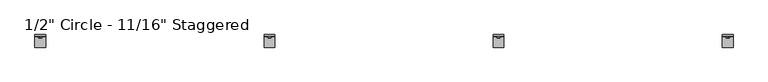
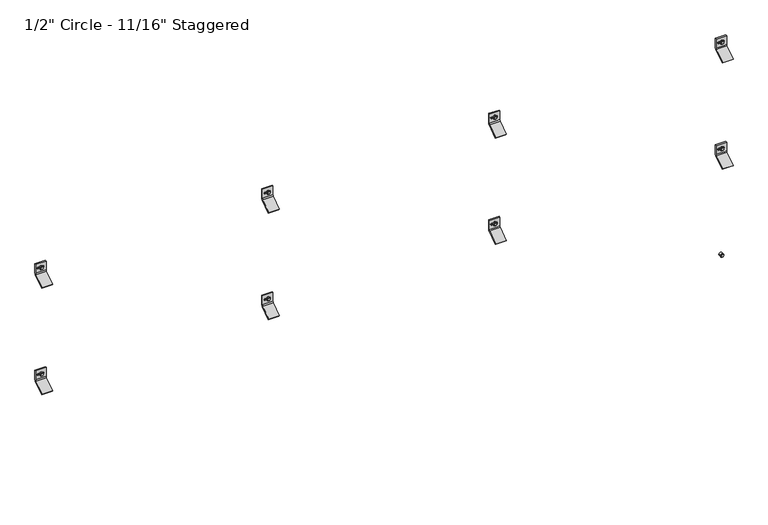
"""IFC4 building model written with IfcOpenShell, lengths in millimetres: plate geometry."""

from ifc_helpers import new_model, si_unit, point, frame, frame_2d, origin, place, context, project, spatial, polyline, circle_curve, trimmed, segment, composite_curve, outline, extrude, source, transform, mapped, element, save
from ifc_brep_helpers import plane_surface, cylinder_surface, revolved_surface, advanced_brep


def plate_2fbea91c(model_context):
    return source(origin(), model_context, "Body", "SolidModel", [
        extrude(outline(polyline([(1395.4295323, 1230.0570034), (1391.0838197, 1232.5660017), (1391.0838197, 1237.5839983), (1395.4295323, 1240.0929966), (1399.7752448, 1237.5839983), (1399.7752448, 1232.5660017), (1395.4295323, 1230.0570034)])), frame((0.0, -58.7607779, 0.0), z_axis=(0.0, 1.0, 0.0), x_axis=(0.0, 0.0, 1.0)), (0.0, 0.0, 1.0), 11.1357779),
        extrude(outline(composite_curve([segment(trimmed(circle_curve(frame_2d((1395.5228392, 1235.075)), 6.35), [point((1395.5228392, 1241.425))], [point((1395.5228392, 1228.725))], False, "CARTESIAN"), True, "CONTINUOUS"), segment(trimmed(circle_curve(frame_2d((1395.5228392, 1235.075)), 6.35), [point((1395.5228392, 1228.725))], [point((1395.5228392, 1241.425))], False, "CARTESIAN"), True, "CONTINUOUS")], self_intersect=False)), frame((0.0, -57.0817743, 0.0), z_axis=(0.0, 1.0, 0.0), x_axis=(0.0, 0.0, 1.0)), (0.0, 0.0, 1.0), 9.4567743),
        advanced_brep(
        [(1216.025, -47.625, 1378.2802202), (1216.025, -51.2819443, 1370.6181877), (1216.025, -89.5163624, 1343.84616), (1216.025, -92.9330442, 1347.2628418), (1216.025, -54.3526876, 1374.2770983), (1216.025, -52.4002, 1378.2802911), (1216.025, -52.4002, 1412.4729053), (1216.025, -47.625, 1412.4729053), (1254.125, -47.625, 1378.2802202), (1254.125, -47.625, 1412.4729053), (1254.125, -52.4002, 1412.4729053), (1254.125, -52.4002, 1378.2802911), (1254.125, -54.3526876, 1374.2770983), (1254.125, -92.9330442, 1347.2628418), (1254.125, -89.5163624, 1343.84616), (1254.125, -51.2819443, 1370.6181877), (1241.8161889, -52.4002, 1398.4276891), (1241.8161889, -52.4002, 1392.0776891), (1225.5883287, -52.4002, 1392.0776891), (1225.5883287, -52.4002, 1398.4276891), (1241.8161889, -47.625, 1392.0776891), (1241.8161889, -47.625, 1398.4276891), (1225.5883287, -47.625, 1398.4276891), (1225.5883287, -47.625, 1392.0776891)],
        [
            (0, 1, circle_curve(frame((1216.025, -57.4802202, 1378.2802202), z_axis=(-1.0, 0.0, 0.0), x_axis=(0.0, -1.0, 0.0)), 9.8552202)),
            (1, 2),
            (2, 3),
            (3, 4),
            (4, 5, circle_curve(frame((1216.025, -57.4803246, 1378.2802911), z_axis=(1.0, 0.0, 0.0), x_axis=(0.0, -1.0, 0.0)), 5.0801246)),
            (5, 6),
            (6, 7),
            (7, 0),
            (8, 9),
            (9, 10),
            (10, 11),
            (11, 12, circle_curve(frame((1254.125, -57.4803246, 1378.2802911), z_axis=(-1.0, 0.0, 0.0), x_axis=(0.0, -1.0, 0.0)), 5.0801246)),
            (12, 13),
            (13, 14),
            (14, 15),
            (15, 8, circle_curve(frame((1254.125, -57.4802202, 1378.2802202), z_axis=(1.0, 0.0, 0.0), x_axis=(0.0, -1.0, 0.0)), 9.8552202)),
            (4, 12),
            (11, 5),
            (10, 6),
            (16, 17, circle_curve(frame((1241.8161889, -52.4002, 1395.2526891), z_axis=(0.0, 1.0, 0.0), x_axis=(0.0, 0.0, -1.0)), 3.175)),
            (17, 18),
            (18, 19, circle_curve(frame((1225.5883287, -52.4002, 1395.2526891), z_axis=(0.0, 1.0, 0.0), x_axis=(0.0, 0.0, -1.0)), 3.175)),
            (19, 16),
            (9, 7),
            (8, 0),
            (20, 21, circle_curve(frame((1241.8161889, -47.625, 1395.2526891), z_axis=(0.0, -1.0, 0.0), x_axis=(0.0, 0.0, -1.0)), 3.175)),
            (21, 22),
            (22, 23, circle_curve(frame((1225.5883287, -47.625, 1395.2526891), z_axis=(0.0, -1.0, 0.0), x_axis=(0.0, 0.0, -1.0)), 3.175)),
            (23, 20),
            (15, 1),
            (20, 17),
            (16, 21),
            (19, 22),
            (18, 23),
            (14, 2),
            (13, 3),
        ],
        [
            plane_surface(frame((1216.025, -67.3354404, 1378.2802202), z_axis=(-1.0, 0.0, 0.0), x_axis=(0.0, 0.0, 1.0))),
            plane_surface(frame((1254.125, -67.3354404, 1378.2802202), z_axis=(1.0, 0.0, 0.0), x_axis=(0.0, 0.0, -1.0))),
            revolved_surface(polyline([(1254.125, -62.5604492, 1378.2802911), (1216.025, -62.5604492, 1378.2802911)]), (1254.125, -57.4803246, 1378.2802911), (1.0, 0.0, 0.0)),
            plane_surface(frame((1216.025, -52.4002, 1378.2802911), z_axis=(0.0, -1.0, 0.0), x_axis=(1.0, 0.0, 0.0))),
            plane_surface(frame((1216.025, -52.4002, 1412.4729053), z_axis=(0.0, 0.0, 1.0), x_axis=(1.0, 0.0, 0.0))),
            plane_surface(frame((1216.025, -47.625, 1412.4729053), z_axis=(0.0, 1.0, 6.99569853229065e-12), x_axis=(1.0, 0.0, 0.0))),
            cylinder_surface(frame((1254.125, -57.4802202, 1378.2802202), z_axis=(-1.0, 0.0, 0.0), x_axis=(0.0, -1.0, 0.0)), 9.8552202),
            revolved_surface(polyline([(1241.8161889, -52.4002, 1392.0776891), (1241.8161889, -47.625, 1392.0776891)]), (1241.8161889, -25.6669948, 1395.2526891), (0.0, -1.0, 0.0)),
            plane_surface(frame((1241.8161889, -86.677982, 1398.4276891), z_axis=(0.0, 0.0, -1.0), x_axis=(0.0, 1.0, 0.0))),
            revolved_surface(polyline([(1225.5883287, -52.4002, 1392.0776891), (1225.5883287, -47.625, 1392.0776891)]), (1225.5883287, -25.6669948, 1395.2526891), (0.0, -1.0, 0.0)),
            plane_surface(frame((1225.5883287, -86.677982, 1392.0776891), z_axis=(-2.7237720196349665e-11, 0.0, 1.0), x_axis=(0.0, 1.0, 0.0))),
            plane_surface(frame((1216.025, -51.2819443, 1370.6181877), z_axis=(0.0, 0.5735764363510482, -0.8191520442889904), x_axis=(1.0, 0.0, 0.0))),
            plane_surface(frame((1216.025, -89.5163624, 1343.84616), z_axis=(0.0, -0.7071067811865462, -0.7071067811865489), x_axis=(1.0, 0.0, 0.0))),
            plane_surface(frame((1216.025, -92.9330442, 1347.2628418), z_axis=(0.0, -0.5735764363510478, 0.8191520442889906), x_axis=(1.0, 0.0, 0.0))),
        ],
        [
            (0, [[1, 2, 3, 4, 5, 6, 7, 8]]),
            (1, [[9, 10, 11, 12, 13, 14, 15, 16]]),
            (2, [[-5, 17, -12, 18]]),
            (3, [[-6, -18, -11, 19], [20, 21, 22, 23]]),
            (4, [[-7, -19, -10, 24]]),
            (5, [[-8, -24, -9, 25], [26, 27, 28, 29]]),
            (6, [[-1, -25, -16, 30]]),
            (7, [[31, -20, 32, -26]]),
            (8, [[-32, -23, 33, -27]]),
            (9, [[-33, -22, 34, -28]]),
            (10, [[-31, -29, -34, -21]]),
            (11, [[-2, -30, -15, 35]]),
            (12, [[-3, -35, -14, 36]]),
            (13, [[-4, -36, -13, -17]]),
        ],
    ),
        extrude(outline(polyline([(1395.4295323, 406.6736701), (1391.0838197, 409.1826684), (1391.0838197, 414.200665), (1395.4295323, 416.7096632), (1399.7752448, 414.200665), (1399.7752448, 409.1826684), (1395.4295323, 406.6736701)])), frame((0.0, -58.7607779, 0.0), z_axis=(0.0, 1.0, 0.0), x_axis=(0.0, 0.0, 1.0)), (0.0, 0.0, 1.0), 11.1357779),
        extrude(outline(composite_curve([segment(trimmed(circle_curve(frame_2d((1395.5228392, 411.6916667)), 6.35), [point((1395.5228392, 418.0416667))], [point((1395.5228392, 405.3416667))], False, "CARTESIAN"), True, "CONTINUOUS"), segment(trimmed(circle_curve(frame_2d((1395.5228392, 411.6916667)), 6.35), [point((1395.5228392, 405.3416667))], [point((1395.5228392, 418.0416667))], False, "CARTESIAN"), True, "CONTINUOUS")], self_intersect=False)), frame((0.0, -57.0817743, 0.0), z_axis=(0.0, 1.0, 0.0), x_axis=(0.0, 0.0, 1.0)), (0.0, 0.0, 1.0), 9.4567743),
        advanced_brep(
        [(392.6416667, -47.625, 1378.2802202), (392.6416667, -51.2819443, 1370.6181877), (392.6416667, -89.5163624, 1343.84616), (392.6416667, -92.9330442, 1347.2628418), (392.6416667, -54.3526876, 1374.2770983), (392.6416667, -52.4002, 1378.2802911), (392.6416667, -52.4002, 1412.4729053), (392.6416667, -47.625, 1412.4729053), (430.7416667, -47.625, 1378.2802202), (430.7416667, -47.625, 1412.4729053), (430.7416667, -52.4002, 1412.4729053), (430.7416667, -52.4002, 1378.2802911), (430.7416667, -54.3526876, 1374.2770983), (430.7416667, -92.9330442, 1347.2628418), (430.7416667, -89.5163624, 1343.84616), (430.7416667, -51.2819443, 1370.6181877), (418.4328556, -52.4002, 1398.4276891), (418.4328556, -52.4002, 1392.0776891), (402.2049954, -52.4002, 1392.0776891), (402.2049954, -52.4002, 1398.4276891), (418.4328556, -47.625, 1392.0776891), (418.4328556, -47.625, 1398.4276891), (402.2049954, -47.625, 1398.4276891), (402.2049954, -47.625, 1392.0776891)],
        [
            (0, 1, circle_curve(frame((392.6416667, -57.4802202, 1378.2802202), z_axis=(-1.0, 0.0, 0.0), x_axis=(0.0, -1.0, 0.0)), 9.8552202)),
            (1, 2),
            (2, 3),
            (3, 4),
            (4, 5, circle_curve(frame((392.6416667, -57.4803246, 1378.2802911), z_axis=(1.0, 0.0, 0.0), x_axis=(0.0, -1.0, 0.0)), 5.0801246)),
            (5, 6),
            (6, 7),
            (7, 0),
            (8, 9),
            (9, 10),
            (10, 11),
            (11, 12, circle_curve(frame((430.7416667, -57.4803246, 1378.2802911), z_axis=(-1.0, 0.0, 0.0), x_axis=(0.0, -1.0, 0.0)), 5.0801246)),
            (12, 13),
            (13, 14),
            (14, 15),
            (15, 8, circle_curve(frame((430.7416667, -57.4802202, 1378.2802202), z_axis=(1.0, 0.0, 0.0), x_axis=(0.0, -1.0, 0.0)), 9.8552202)),
            (4, 12),
            (11, 5),
            (10, 6),
            (16, 17, circle_curve(frame((418.4328556, -52.4002, 1395.2526891), z_axis=(0.0, 1.0, 0.0), x_axis=(0.0, 0.0, -1.0)), 3.175)),
            (17, 18),
            (18, 19, circle_curve(frame((402.2049954, -52.4002, 1395.2526891), z_axis=(0.0, 1.0, 0.0), x_axis=(0.0, 0.0, -1.0)), 3.175)),
            (19, 16),
            (9, 7),
            (8, 0),
            (20, 21, circle_curve(frame((418.4328556, -47.625, 1395.2526891), z_axis=(0.0, -1.0, 0.0), x_axis=(0.0, 0.0, -1.0)), 3.175)),
            (21, 22),
            (22, 23, circle_curve(frame((402.2049954, -47.625, 1395.2526891), z_axis=(0.0, -1.0, 0.0), x_axis=(0.0, 0.0, -1.0)), 3.175)),
            (23, 20),
            (15, 1),
            (20, 17),
            (16, 21),
            (19, 22),
            (18, 23),
            (14, 2),
            (13, 3),
        ],
        [
            plane_surface(frame((392.6416667, -67.3354404, 1378.2802202), z_axis=(-1.0, 0.0, 0.0), x_axis=(0.0, 0.0, 1.0))),
            plane_surface(frame((430.7416667, -67.3354404, 1378.2802202), z_axis=(1.0, 0.0, 0.0), x_axis=(0.0, 0.0, -1.0))),
            revolved_surface(polyline([(430.7416667, -62.5604492, 1378.2802911), (392.6416667, -62.5604492, 1378.2802911)]), (430.7416667, -57.4803246, 1378.2802911), (1.0, 0.0, 0.0)),
            plane_surface(frame((392.6416667, -52.4002, 1378.2802911), z_axis=(0.0, -1.0, 0.0), x_axis=(1.0, 0.0, 0.0))),
            plane_surface(frame((392.6416667, -52.4002, 1412.4729053), z_axis=(0.0, 0.0, 1.0), x_axis=(1.0, 0.0, 0.0))),
            plane_surface(frame((392.6416667, -47.625, 1412.4729053), z_axis=(0.0, 1.0, 6.99569853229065e-12), x_axis=(1.0, 0.0, 0.0))),
            cylinder_surface(frame((430.7416667, -57.4802202, 1378.2802202), z_axis=(-1.0, 0.0, 0.0), x_axis=(0.0, -1.0, 0.0)), 9.8552202),
            revolved_surface(polyline([(418.4328556, -52.4002, 1392.0776891), (418.4328556, -47.625, 1392.0776891)]), (418.4328556, -25.6669948, 1395.2526891), (0.0, -1.0, 0.0)),
            plane_surface(frame((418.4328556, -86.677982, 1398.4276891), z_axis=(0.0, 0.0, -1.0), x_axis=(0.0, 1.0, 0.0))),
            revolved_surface(polyline([(402.2049954, -52.4002, 1392.0776891), (402.2049954, -47.625, 1392.0776891)]), (402.2049954, -25.6669948, 1395.2526891), (0.0, -1.0, 0.0)),
            plane_surface(frame((402.2049954, -86.677982, 1392.0776891), z_axis=(-2.7237720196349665e-11, 0.0, 1.0), x_axis=(0.0, 1.0, 0.0))),
            plane_surface(frame((392.6416667, -51.2819443, 1370.6181877), z_axis=(0.0, 0.5735764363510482, -0.8191520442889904), x_axis=(1.0, 0.0, 0.0))),
            plane_surface(frame((392.6416667, -89.5163624, 1343.84616), z_axis=(0.0, -0.7071067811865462, -0.7071067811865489), x_axis=(1.0, 0.0, 0.0))),
            plane_surface(frame((392.6416667, -92.9330442, 1347.2628418), z_axis=(0.0, -0.5735764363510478, 0.8191520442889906), x_axis=(1.0, 0.0, 0.0))),
        ],
        [
            (0, [[1, 2, 3, 4, 5, 6, 7, 8]]),
            (1, [[9, 10, 11, 12, 13, 14, 15, 16]]),
            (2, [[-5, 17, -12, 18]]),
            (3, [[-6, -18, -11, 19], [20, 21, 22, 23]]),
            (4, [[-7, -19, -10, 24]]),
            (5, [[-8, -24, -9, 25], [26, 27, 28, 29]]),
            (6, [[-1, -25, -16, 30]]),
            (7, [[31, -20, 32, -26]]),
            (8, [[-32, -23, 33, -27]]),
            (9, [[-33, -22, 34, -28]]),
            (10, [[-31, -29, -34, -21]]),
            (11, [[-2, -30, -15, 35]]),
            (12, [[-3, -35, -14, 36]]),
            (13, [[-4, -36, -13, -17]]),
        ],
    ),
        extrude(outline(polyline([(1395.4295323, -416.7096632), (1391.0838197, -414.200665), (1391.0838197, -409.1826684), (1395.4295323, -406.6736701), (1399.7752448, -409.1826684), (1399.7752448, -414.200665), (1395.4295323, -416.7096632)])), frame((0.0, -58.7607779, 0.0), z_axis=(0.0, 1.0, 0.0), x_axis=(0.0, 0.0, 1.0)), (0.0, 0.0, 1.0), 11.1357779),
        extrude(outline(composite_curve([segment(trimmed(circle_curve(frame_2d((1395.5228392, -411.6916667)), 6.35), [point((1395.5228392, -405.3416667))], [point((1395.5228392, -418.0416667))], False, "CARTESIAN"), True, "CONTINUOUS"), segment(trimmed(circle_curve(frame_2d((1395.5228392, -411.6916667)), 6.35), [point((1395.5228392, -418.0416667))], [point((1395.5228392, -405.3416667))], False, "CARTESIAN"), True, "CONTINUOUS")], self_intersect=False)), frame((0.0, -57.0817743, 0.0), z_axis=(0.0, 1.0, 0.0), x_axis=(0.0, 0.0, 1.0)), (0.0, 0.0, 1.0), 9.4567743),
        advanced_brep(
        [(-430.7416667, -47.625, 1378.2802202), (-430.7416667, -51.2819443, 1370.6181877), (-430.7416667, -89.5163624, 1343.84616), (-430.7416667, -92.9330442, 1347.2628418), (-430.7416667, -54.3526876, 1374.2770983), (-430.7416667, -52.4002, 1378.2802911), (-430.7416667, -52.4002, 1412.4729053), (-430.7416667, -47.625, 1412.4729053), (-392.6416667, -47.625, 1378.2802202), (-392.6416667, -47.625, 1412.4729053), (-392.6416667, -52.4002, 1412.4729053), (-392.6416667, -52.4002, 1378.2802911), (-392.6416667, -54.3526876, 1374.2770983), (-392.6416667, -92.9330442, 1347.2628418), (-392.6416667, -89.5163624, 1343.84616), (-392.6416667, -51.2819443, 1370.6181877), (-404.9504778, -52.4002, 1398.4276891), (-404.9504778, -52.4002, 1392.0776891), (-421.178338, -52.4002, 1392.0776891), (-421.178338, -52.4002, 1398.4276891), (-404.9504778, -47.625, 1392.0776891), (-404.9504778, -47.625, 1398.4276891), (-421.178338, -47.625, 1398.4276891), (-421.178338, -47.625, 1392.0776891)],
        [
            (0, 1, circle_curve(frame((-430.7416667, -57.4802202, 1378.2802202), z_axis=(-1.0, 0.0, 0.0), x_axis=(0.0, -1.0, 0.0)), 9.8552202)),
            (1, 2),
            (2, 3),
            (3, 4),
            (4, 5, circle_curve(frame((-430.7416667, -57.4803246, 1378.2802911), z_axis=(1.0, 0.0, 0.0), x_axis=(0.0, -1.0, 0.0)), 5.0801246)),
            (5, 6),
            (6, 7),
            (7, 0),
            (8, 9),
            (9, 10),
            (10, 11),
            (11, 12, circle_curve(frame((-392.6416667, -57.4803246, 1378.2802911), z_axis=(-1.0, 0.0, 0.0), x_axis=(0.0, -1.0, 0.0)), 5.0801246)),
            (12, 13),
            (13, 14),
            (14, 15),
            (15, 8, circle_curve(frame((-392.6416667, -57.4802202, 1378.2802202), z_axis=(1.0, 0.0, 0.0), x_axis=(0.0, -1.0, 0.0)), 9.8552202)),
            (4, 12),
            (11, 5),
            (10, 6),
            (16, 17, circle_curve(frame((-404.9504778, -52.4002, 1395.2526891), z_axis=(0.0, 1.0, 0.0), x_axis=(0.0, 0.0, -1.0)), 3.175)),
            (17, 18),
            (18, 19, circle_curve(frame((-421.178338, -52.4002, 1395.2526891), z_axis=(0.0, 1.0, 0.0), x_axis=(0.0, 0.0, -1.0)), 3.175)),
            (19, 16),
            (9, 7),
            (8, 0),
            (20, 21, circle_curve(frame((-404.9504778, -47.625, 1395.2526891), z_axis=(0.0, -1.0, 0.0), x_axis=(0.0, 0.0, -1.0)), 3.175)),
            (21, 22),
            (22, 23, circle_curve(frame((-421.178338, -47.625, 1395.2526891), z_axis=(0.0, -1.0, 0.0), x_axis=(0.0, 0.0, -1.0)), 3.175)),
            (23, 20),
            (15, 1),
            (20, 17),
            (16, 21),
            (19, 22),
            (18, 23),
            (14, 2),
            (13, 3),
        ],
        [
            plane_surface(frame((-430.7416667, -67.3354404, 1378.2802202), z_axis=(-1.0, 0.0, 0.0), x_axis=(0.0, 0.0, 1.0))),
            plane_surface(frame((-392.6416667, -67.3354404, 1378.2802202), z_axis=(1.0, 0.0, 0.0), x_axis=(0.0, 0.0, -1.0))),
            revolved_surface(polyline([(-392.6416667, -62.5604492, 1378.2802911), (-430.7416667, -62.5604492, 1378.2802911)]), (-392.6416667, -57.4803246, 1378.2802911), (1.0, 0.0, 0.0)),
            plane_surface(frame((-430.7416667, -52.4002, 1378.2802911), z_axis=(0.0, -1.0, 0.0), x_axis=(1.0, 0.0, 0.0))),
            plane_surface(frame((-430.7416667, -52.4002, 1412.4729053), z_axis=(0.0, 0.0, 1.0), x_axis=(1.0, 0.0, 0.0))),
            plane_surface(frame((-430.7416667, -47.625, 1412.4729053), z_axis=(0.0, 1.0, 6.99569853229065e-12), x_axis=(1.0, 0.0, 0.0))),
            cylinder_surface(frame((-392.6416667, -57.4802202, 1378.2802202), z_axis=(-1.0, 0.0, 0.0), x_axis=(0.0, -1.0, 0.0)), 9.8552202),
            revolved_surface(polyline([(-404.9504778, -52.4002, 1392.0776891), (-404.9504778, -47.625, 1392.0776891)]), (-404.9504778, -25.6669948, 1395.2526891), (0.0, -1.0, 0.0)),
            plane_surface(frame((-404.9504778, -86.677982, 1398.4276891), z_axis=(0.0, 0.0, -1.0), x_axis=(0.0, 1.0, 0.0))),
            revolved_surface(polyline([(-421.178338, -52.4002, 1392.0776891), (-421.178338, -47.625, 1392.0776891)]), (-421.178338, -25.6669948, 1395.2526891), (0.0, -1.0, 0.0)),
            plane_surface(frame((-421.178338, -86.677982, 1392.0776891), z_axis=(-2.7237720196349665e-11, 0.0, 1.0), x_axis=(0.0, 1.0, 0.0))),
            plane_surface(frame((-430.7416667, -51.2819443, 1370.6181877), z_axis=(0.0, 0.5735764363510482, -0.8191520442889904), x_axis=(1.0, 0.0, 0.0))),
            plane_surface(frame((-430.7416667, -89.5163624, 1343.84616), z_axis=(0.0, -0.7071067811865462, -0.7071067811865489), x_axis=(1.0, 0.0, 0.0))),
            plane_surface(frame((-430.7416667, -92.9330442, 1347.2628418), z_axis=(0.0, -0.5735764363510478, 0.8191520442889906), x_axis=(1.0, 0.0, 0.0))),
        ],
        [
            (0, [[1, 2, 3, 4, 5, 6, 7, 8]]),
            (1, [[9, 10, 11, 12, 13, 14, 15, 16]]),
            (2, [[-5, 17, -12, 18]]),
            (3, [[-6, -18, -11, 19], [20, 21, 22, 23]]),
            (4, [[-7, -19, -10, 24]]),
            (5, [[-8, -24, -9, 25], [26, 27, 28, 29]]),
            (6, [[-1, -25, -16, 30]]),
            (7, [[31, -20, 32, -26]]),
            (8, [[-32, -23, 33, -27]]),
            (9, [[-33, -22, 34, -28]]),
            (10, [[-31, -29, -34, -21]]),
            (11, [[-2, -30, -15, 35]]),
            (12, [[-3, -35, -14, 36]]),
            (13, [[-4, -36, -13, -17]]),
        ],
    ),
        extrude(outline(polyline([(1395.4295323, -1240.0929966), (1391.0838197, -1237.5839983), (1391.0838197, -1232.5660017), (1395.4295323, -1230.0570034), (1399.7752448, -1232.5660017), (1399.7752448, -1237.5839983), (1395.4295323, -1240.0929966)])), frame((0.0, -58.7607779, 0.0), z_axis=(0.0, 1.0, 0.0), x_axis=(0.0, 0.0, 1.0)), (0.0, 0.0, 1.0), 11.1357779),
        extrude(outline(composite_curve([segment(trimmed(circle_curve(frame_2d((1395.5228392, -1235.075)), 6.35), [point((1395.5228392, -1228.725))], [point((1395.5228392, -1241.425))], False, "CARTESIAN"), True, "CONTINUOUS"), segment(trimmed(circle_curve(frame_2d((1395.5228392, -1235.075)), 6.35), [point((1395.5228392, -1241.425))], [point((1395.5228392, -1228.725))], False, "CARTESIAN"), True, "CONTINUOUS")], self_intersect=False)), frame((0.0, -57.0817743, 0.0), z_axis=(0.0, 1.0, 0.0), x_axis=(0.0, 0.0, 1.0)), (0.0, 0.0, 1.0), 9.4567743),
        advanced_brep(
        [(-1254.125, -47.625, 1378.2802202), (-1254.125, -51.2819443, 1370.6181877), (-1254.125, -89.5163624, 1343.84616), (-1254.125, -92.9330442, 1347.2628418), (-1254.125, -54.3526876, 1374.2770983), (-1254.125, -52.4002, 1378.2802911), (-1254.125, -52.4002, 1412.4729053), (-1254.125, -47.625, 1412.4729053), (-1216.025, -47.625, 1378.2802202), (-1216.025, -47.625, 1412.4729053), (-1216.025, -52.4002, 1412.4729053), (-1216.025, -52.4002, 1378.2802911), (-1216.025, -54.3526876, 1374.2770983), (-1216.025, -92.9330442, 1347.2628418), (-1216.025, -89.5163624, 1343.84616), (-1216.025, -51.2819443, 1370.6181877), (-1228.3338111, -52.4002, 1398.4276891), (-1228.3338111, -52.4002, 1392.0776891), (-1244.5616713, -52.4002, 1392.0776891), (-1244.5616713, -52.4002, 1398.4276891), (-1228.3338111, -47.625, 1392.0776891), (-1228.3338111, -47.625, 1398.4276891), (-1244.5616713, -47.625, 1398.4276891), (-1244.5616713, -47.625, 1392.0776891)],
        [
            (0, 1, circle_curve(frame((-1254.125, -57.4802202, 1378.2802202), z_axis=(-1.0, 0.0, 0.0), x_axis=(0.0, -1.0, 0.0)), 9.8552202)),
            (1, 2),
            (2, 3),
            (3, 4),
            (4, 5, circle_curve(frame((-1254.125, -57.4803246, 1378.2802911), z_axis=(1.0, 0.0, 0.0), x_axis=(0.0, -1.0, 0.0)), 5.0801246)),
            (5, 6),
            (6, 7),
            (7, 0),
            (8, 9),
            (9, 10),
            (10, 11),
            (11, 12, circle_curve(frame((-1216.025, -57.4803246, 1378.2802911), z_axis=(-1.0, 0.0, 0.0), x_axis=(0.0, -1.0, 0.0)), 5.0801246)),
            (12, 13),
            (13, 14),
            (14, 15),
            (15, 8, circle_curve(frame((-1216.025, -57.4802202, 1378.2802202), z_axis=(1.0, 0.0, 0.0), x_axis=(0.0, -1.0, 0.0)), 9.8552202)),
            (4, 12),
            (11, 5),
            (10, 6),
            (16, 17, circle_curve(frame((-1228.3338111, -52.4002, 1395.2526891), z_axis=(0.0, 1.0, 0.0), x_axis=(0.0, 0.0, -1.0)), 3.175)),
            (17, 18),
            (18, 19, circle_curve(frame((-1244.5616713, -52.4002, 1395.2526891), z_axis=(0.0, 1.0, 0.0), x_axis=(0.0, 0.0, -1.0)), 3.175)),
            (19, 16),
            (9, 7),
            (8, 0),
            (20, 21, circle_curve(frame((-1228.3338111, -47.625, 1395.2526891), z_axis=(0.0, -1.0, 0.0), x_axis=(0.0, 0.0, -1.0)), 3.175)),
            (21, 22),
            (22, 23, circle_curve(frame((-1244.5616713, -47.625, 1395.2526891), z_axis=(0.0, -1.0, 0.0), x_axis=(0.0, 0.0, -1.0)), 3.175)),
            (23, 20),
            (15, 1),
            (20, 17),
            (16, 21),
            (19, 22),
            (18, 23),
            (14, 2),
            (13, 3),
        ],
        [
            plane_surface(frame((-1254.125, -67.3354404, 1378.2802202), z_axis=(-1.0, 0.0, 0.0), x_axis=(0.0, 0.0, 1.0))),
            plane_surface(frame((-1216.025, -67.3354404, 1378.2802202), z_axis=(1.0, 0.0, 0.0), x_axis=(0.0, 0.0, -1.0))),
            revolved_surface(polyline([(-1216.025, -62.5604492, 1378.2802911), (-1254.125, -62.5604492, 1378.2802911)]), (-1216.025, -57.4803246, 1378.2802911), (1.0, 0.0, 0.0)),
            plane_surface(frame((-1254.125, -52.4002, 1378.2802911), z_axis=(0.0, -1.0, 0.0), x_axis=(1.0, 0.0, 0.0))),
            plane_surface(frame((-1254.125, -52.4002, 1412.4729053), z_axis=(0.0, 0.0, 1.0), x_axis=(1.0, 0.0, 0.0))),
            plane_surface(frame((-1254.125, -47.625, 1412.4729053), z_axis=(0.0, 1.0, 6.99569853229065e-12), x_axis=(1.0, 0.0, 0.0))),
            cylinder_surface(frame((-1216.025, -57.4802202, 1378.2802202), z_axis=(-1.0, 0.0, 0.0), x_axis=(0.0, -1.0, 0.0)), 9.8552202),
            revolved_surface(polyline([(-1228.3338111, -52.4002, 1392.0776891), (-1228.3338111, -47.625, 1392.0776891)]), (-1228.3338111, -25.6669948, 1395.2526891), (0.0, -1.0, 0.0)),
            plane_surface(frame((-1228.3338111, -86.677982, 1398.4276891), z_axis=(0.0, 0.0, -1.0), x_axis=(0.0, 1.0, 0.0))),
            revolved_surface(polyline([(-1244.5616713, -52.4002, 1392.0776891), (-1244.5616713, -47.625, 1392.0776891)]), (-1244.5616713, -25.6669948, 1395.2526891), (0.0, -1.0, 0.0)),
            plane_surface(frame((-1244.5616713, -86.677982, 1392.0776891), z_axis=(-2.7237720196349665e-11, 0.0, 1.0), x_axis=(0.0, 1.0, 0.0))),
            plane_surface(frame((-1254.125, -51.2819443, 1370.6181877), z_axis=(0.0, 0.5735764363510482, -0.8191520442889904), x_axis=(1.0, 0.0, 0.0))),
            plane_surface(frame((-1254.125, -89.5163624, 1343.84616), z_axis=(0.0, -0.7071067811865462, -0.7071067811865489), x_axis=(1.0, 0.0, 0.0))),
            plane_surface(frame((-1254.125, -92.9330442, 1347.2628418), z_axis=(0.0, -0.5735764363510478, 0.8191520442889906), x_axis=(1.0, 0.0, 0.0))),
        ],
        [
            (0, [[1, 2, 3, 4, 5, 6, 7, 8]]),
            (1, [[9, 10, 11, 12, 13, 14, 15, 16]]),
            (2, [[-5, 17, -12, 18]]),
            (3, [[-6, -18, -11, 19], [20, 21, 22, 23]]),
            (4, [[-7, -19, -10, 24]]),
            (5, [[-8, -24, -9, 25], [26, 27, 28, 29]]),
            (6, [[-1, -25, -16, 30]]),
            (7, [[31, -20, 32, -26]]),
            (8, [[-32, -23, 33, -27]]),
            (9, [[-33, -22, 34, -28]]),
            (10, [[-31, -29, -34, -21]]),
            (11, [[-2, -30, -15, 35]]),
            (12, [[-3, -35, -14, 36]]),
            (13, [[-4, -36, -13, -17]]),
        ],
    ),
        extrude(outline(polyline([(986.9128656, 1230.0570034), (982.5671531, 1232.5660017), (982.5671531, 1237.5839983), (986.9128656, 1240.0929966), (991.2585781, 1237.5839983), (991.2585781, 1232.5660017), (986.9128656, 1230.0570034)])), frame((0.0, -58.7607779, 0.0), z_axis=(0.0, 1.0, 0.0), x_axis=(0.0, 0.0, 1.0)), (0.0, 0.0, 1.0), 11.1357779),
        extrude(outline(composite_curve([segment(trimmed(circle_curve(frame_2d((987.0061726, 1235.075)), 6.35), [point((987.0061726, 1241.425))], [point((987.0061726, 1228.725))], False, "CARTESIAN"), True, "CONTINUOUS"), segment(trimmed(circle_curve(frame_2d((987.0061726, 1235.075)), 6.35), [point((987.0061726, 1228.725))], [point((987.0061726, 1241.425))], False, "CARTESIAN"), True, "CONTINUOUS")], self_intersect=False)), frame((0.0, -57.0817743, 0.0), z_axis=(0.0, 1.0, 0.0), x_axis=(0.0, 0.0, 1.0)), (0.0, 0.0, 1.0), 9.4567743),
        advanced_brep(
        [(1216.025, -47.625, 969.7635535), (1216.025, -51.2819443, 962.1015211), (1216.025, -89.5163624, 935.3294933), (1216.025, -92.9330442, 938.7461751), (1216.025, -54.3526876, 965.7604316), (1216.025, -52.4002, 969.7636244), (1216.025, -52.4002, 1003.9562386), (1216.025, -47.625, 1003.9562386), (1254.125, -47.625, 969.7635535), (1254.125, -47.625, 1003.9562386), (1254.125, -52.4002, 1003.9562386), (1254.125, -52.4002, 969.7636244), (1254.125, -54.3526876, 965.7604316), (1254.125, -92.9330442, 938.7461751), (1254.125, -89.5163624, 935.3294933), (1254.125, -51.2819443, 962.1015211), (1241.8161889, -52.4002, 989.9110224), (1241.8161889, -52.4002, 983.5610224), (1225.5883287, -52.4002, 983.5610224), (1225.5883287, -52.4002, 989.9110224), (1241.8161889, -47.625, 983.5610224), (1241.8161889, -47.625, 989.9110224), (1225.5883287, -47.625, 989.9110224), (1225.5883287, -47.625, 983.5610224)],
        [
            (0, 1, circle_curve(frame((1216.025, -57.4802202, 969.7635535), z_axis=(-1.0, 0.0, 0.0), x_axis=(0.0, -1.0, 0.0)), 9.8552202)),
            (1, 2),
            (2, 3),
            (3, 4),
            (4, 5, circle_curve(frame((1216.025, -57.4803246, 969.7636244), z_axis=(1.0, 0.0, 0.0), x_axis=(0.0, -1.0, 0.0)), 5.0801246)),
            (5, 6),
            (6, 7),
            (7, 0),
            (8, 9),
            (9, 10),
            (10, 11),
            (11, 12, circle_curve(frame((1254.125, -57.4803246, 969.7636244), z_axis=(-1.0, 0.0, 0.0), x_axis=(0.0, -1.0, 0.0)), 5.0801246)),
            (12, 13),
            (13, 14),
            (14, 15),
            (15, 8, circle_curve(frame((1254.125, -57.4802202, 969.7635535), z_axis=(1.0, 0.0, 0.0), x_axis=(0.0, -1.0, 0.0)), 9.8552202)),
            (4, 12),
            (11, 5),
            (10, 6),
            (16, 17, circle_curve(frame((1241.8161889, -52.4002, 986.7360224), z_axis=(0.0, 1.0, 0.0), x_axis=(0.0, 0.0, -1.0)), 3.175)),
            (17, 18),
            (18, 19, circle_curve(frame((1225.5883287, -52.4002, 986.7360224), z_axis=(0.0, 1.0, 0.0), x_axis=(0.0, 0.0, -1.0)), 3.175)),
            (19, 16),
            (9, 7),
            (8, 0),
            (20, 21, circle_curve(frame((1241.8161889, -47.625, 986.7360224), z_axis=(0.0, -1.0, 0.0), x_axis=(0.0, 0.0, -1.0)), 3.175)),
            (21, 22),
            (22, 23, circle_curve(frame((1225.5883287, -47.625, 986.7360224), z_axis=(0.0, -1.0, 0.0), x_axis=(0.0, 0.0, -1.0)), 3.175)),
            (23, 20),
            (15, 1),
            (20, 17),
            (16, 21),
            (19, 22),
            (18, 23),
            (14, 2),
            (13, 3),
        ],
        [
            plane_surface(frame((1216.025, -67.3354404, 969.7635535), z_axis=(-1.0, 0.0, 0.0), x_axis=(0.0, 0.0, 1.0))),
            plane_surface(frame((1254.125, -67.3354404, 969.7635535), z_axis=(1.0, 0.0, 0.0), x_axis=(0.0, 0.0, -1.0))),
            revolved_surface(polyline([(1254.125, -62.5604492, 969.7636244), (1216.025, -62.5604492, 969.7636244)]), (1254.125, -57.4803246, 969.7636244), (1.0, 0.0, 0.0)),
            plane_surface(frame((1216.025, -52.4002, 969.7636244), z_axis=(0.0, -1.0, 0.0), x_axis=(1.0, 0.0, 0.0))),
            plane_surface(frame((1216.025, -52.4002, 1003.9562386), z_axis=(0.0, 0.0, 1.0), x_axis=(1.0, 0.0, 0.0))),
            plane_surface(frame((1216.025, -47.625, 1003.9562386), z_axis=(0.0, 1.0, 6.99569853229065e-12), x_axis=(1.0, 0.0, 0.0))),
            cylinder_surface(frame((1254.125, -57.4802202, 969.7635535), z_axis=(-1.0, 0.0, 0.0), x_axis=(0.0, -1.0, 0.0)), 9.8552202),
            revolved_surface(polyline([(1241.8161889, -52.4002, 983.5610224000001), (1241.8161889, -47.625, 983.5610224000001)]), (1241.8161889, -25.6669948, 986.7360224), (0.0, -1.0, 0.0)),
            plane_surface(frame((1241.8161889, -86.677982, 989.9110224), z_axis=(0.0, 0.0, -1.0), x_axis=(0.0, 1.0, 0.0))),
            revolved_surface(polyline([(1225.5883287, -52.4002, 983.5610224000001), (1225.5883287, -47.625, 983.5610224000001)]), (1225.5883287, -25.6669948, 986.7360224), (0.0, -1.0, 0.0)),
            plane_surface(frame((1225.5883287, -86.677982, 983.5610224), z_axis=(-2.7237766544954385e-11, 0.0, 1.0), x_axis=(0.0, 1.0, 0.0))),
            plane_surface(frame((1216.025, -51.2819443, 962.1015211), z_axis=(0.0, 0.5735764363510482, -0.8191520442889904), x_axis=(1.0, 0.0, 0.0))),
            plane_surface(frame((1216.025, -89.5163624, 935.3294933), z_axis=(0.0, -0.7071067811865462, -0.7071067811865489), x_axis=(1.0, 0.0, 0.0))),
            plane_surface(frame((1216.025, -92.9330442, 938.7461751), z_axis=(0.0, -0.5735764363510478, 0.8191520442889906), x_axis=(1.0, 0.0, 0.0))),
        ],
        [
            (0, [[1, 2, 3, 4, 5, 6, 7, 8]]),
            (1, [[9, 10, 11, 12, 13, 14, 15, 16]]),
            (2, [[-5, 17, -12, 18]]),
            (3, [[-6, -18, -11, 19], [20, 21, 22, 23]]),
            (4, [[-7, -19, -10, 24]]),
            (5, [[-8, -24, -9, 25], [26, 27, 28, 29]]),
            (6, [[-1, -25, -16, 30]]),
            (7, [[31, -20, 32, -26]]),
            (8, [[-32, -23, 33, -27]]),
            (9, [[-33, -22, 34, -28]]),
            (10, [[-31, -29, -34, -21]]),
            (11, [[-2, -30, -15, 35]]),
            (12, [[-3, -35, -14, 36]]),
            (13, [[-4, -36, -13, -17]]),
        ],
    ),
        extrude(outline(polyline([(986.9128656, 406.6736701), (982.5671531, 409.1826684), (982.5671531, 414.200665), (986.9128656, 416.7096632), (991.2585781, 414.200665), (991.2585781, 409.1826684), (986.9128656, 406.6736701)])), frame((0.0, -58.7607779, 0.0), z_axis=(0.0, 1.0, 0.0), x_axis=(0.0, 0.0, 1.0)), (0.0, 0.0, 1.0), 11.1357779),
        extrude(outline(composite_curve([segment(trimmed(circle_curve(frame_2d((987.0061726, 411.6916667)), 6.35), [point((987.0061726, 418.0416667))], [point((987.0061726, 405.3416667))], False, "CARTESIAN"), True, "CONTINUOUS"), segment(trimmed(circle_curve(frame_2d((987.0061726, 411.6916667)), 6.35), [point((987.0061726, 405.3416667))], [point((987.0061726, 418.0416667))], False, "CARTESIAN"), True, "CONTINUOUS")], self_intersect=False)), frame((0.0, -57.0817743, 0.0), z_axis=(0.0, 1.0, 0.0), x_axis=(0.0, 0.0, 1.0)), (0.0, 0.0, 1.0), 9.4567743),
        advanced_brep(
        [(392.6416667, -47.625, 969.7635535), (392.6416667, -51.2819443, 962.1015211), (392.6416667, -89.5163624, 935.3294933), (392.6416667, -92.9330442, 938.7461751), (392.6416667, -54.3526876, 965.7604316), (392.6416667, -52.4002, 969.7636244), (392.6416667, -52.4002, 1003.9562386), (392.6416667, -47.625, 1003.9562386), (430.7416667, -47.625, 969.7635535), (430.7416667, -47.625, 1003.9562386), (430.7416667, -52.4002, 1003.9562386), (430.7416667, -52.4002, 969.7636244), (430.7416667, -54.3526876, 965.7604316), (430.7416667, -92.9330442, 938.7461751), (430.7416667, -89.5163624, 935.3294933), (430.7416667, -51.2819443, 962.1015211), (418.4328556, -52.4002, 989.9110224), (418.4328556, -52.4002, 983.5610224), (402.2049954, -52.4002, 983.5610224), (402.2049954, -52.4002, 989.9110224), (418.4328556, -47.625, 983.5610224), (418.4328556, -47.625, 989.9110224), (402.2049954, -47.625, 989.9110224), (402.2049954, -47.625, 983.5610224)],
        [
            (0, 1, circle_curve(frame((392.6416667, -57.4802202, 969.7635535), z_axis=(-1.0, 0.0, 0.0), x_axis=(0.0, -1.0, 0.0)), 9.8552202)),
            (1, 2),
            (2, 3),
            (3, 4),
            (4, 5, circle_curve(frame((392.6416667, -57.4803246, 969.7636244), z_axis=(1.0, 0.0, 0.0), x_axis=(0.0, -1.0, 0.0)), 5.0801246)),
            (5, 6),
            (6, 7),
            (7, 0),
            (8, 9),
            (9, 10),
            (10, 11),
            (11, 12, circle_curve(frame((430.7416667, -57.4803246, 969.7636244), z_axis=(-1.0, 0.0, 0.0), x_axis=(0.0, -1.0, 0.0)), 5.0801246)),
            (12, 13),
            (13, 14),
            (14, 15),
            (15, 8, circle_curve(frame((430.7416667, -57.4802202, 969.7635535), z_axis=(1.0, 0.0, 0.0), x_axis=(0.0, -1.0, 0.0)), 9.8552202)),
            (4, 12),
            (11, 5),
            (10, 6),
            (16, 17, circle_curve(frame((418.4328556, -52.4002, 986.7360224), z_axis=(0.0, 1.0, 0.0), x_axis=(0.0, 0.0, -1.0)), 3.175)),
            (17, 18),
            (18, 19, circle_curve(frame((402.2049954, -52.4002, 986.7360224), z_axis=(0.0, 1.0, 0.0), x_axis=(0.0, 0.0, -1.0)), 3.175)),
            (19, 16),
            (9, 7),
            (8, 0),
            (20, 21, circle_curve(frame((418.4328556, -47.625, 986.7360224), z_axis=(0.0, -1.0, 0.0), x_axis=(0.0, 0.0, -1.0)), 3.175)),
            (21, 22),
            (22, 23, circle_curve(frame((402.2049954, -47.625, 986.7360224), z_axis=(0.0, -1.0, 0.0), x_axis=(0.0, 0.0, -1.0)), 3.175)),
            (23, 20),
            (15, 1),
            (20, 17),
            (16, 21),
            (19, 22),
            (18, 23),
            (14, 2),
            (13, 3),
        ],
        [
            plane_surface(frame((392.6416667, -67.3354404, 969.7635535), z_axis=(-1.0, 0.0, 0.0), x_axis=(0.0, 0.0, 1.0))),
            plane_surface(frame((430.7416667, -67.3354404, 969.7635535), z_axis=(1.0, 0.0, 0.0), x_axis=(0.0, 0.0, -1.0))),
            revolved_surface(polyline([(430.7416667, -62.5604492, 969.7636244), (392.6416667, -62.5604492, 969.7636244)]), (430.7416667, -57.4803246, 969.7636244), (1.0, 0.0, 0.0)),
            plane_surface(frame((392.6416667, -52.4002, 969.7636244), z_axis=(0.0, -1.0, 0.0), x_axis=(1.0, 0.0, 0.0))),
            plane_surface(frame((392.6416667, -52.4002, 1003.9562386), z_axis=(0.0, 0.0, 1.0), x_axis=(1.0, 0.0, 0.0))),
            plane_surface(frame((392.6416667, -47.625, 1003.9562386), z_axis=(0.0, 1.0, 6.99569853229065e-12), x_axis=(1.0, 0.0, 0.0))),
            cylinder_surface(frame((430.7416667, -57.4802202, 969.7635535), z_axis=(-1.0, 0.0, 0.0), x_axis=(0.0, -1.0, 0.0)), 9.8552202),
            revolved_surface(polyline([(418.4328556, -52.4002, 983.5610224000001), (418.4328556, -47.625, 983.5610224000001)]), (418.4328556, -25.6669948, 986.7360224), (0.0, -1.0, 0.0)),
            plane_surface(frame((418.4328556, -86.677982, 989.9110224), z_axis=(0.0, 0.0, -1.0), x_axis=(0.0, 1.0, 0.0))),
            revolved_surface(polyline([(402.2049954, -52.4002, 983.5610224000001), (402.2049954, -47.625, 983.5610224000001)]), (402.2049954, -25.6669948, 986.7360224), (0.0, -1.0, 0.0)),
            plane_surface(frame((402.2049954, -86.677982, 983.5610224), z_axis=(-2.7237766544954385e-11, 0.0, 1.0), x_axis=(0.0, 1.0, 0.0))),
            plane_surface(frame((392.6416667, -51.2819443, 962.1015211), z_axis=(0.0, 0.5735764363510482, -0.8191520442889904), x_axis=(1.0, 0.0, 0.0))),
            plane_surface(frame((392.6416667, -89.5163624, 935.3294933), z_axis=(0.0, -0.7071067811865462, -0.7071067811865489), x_axis=(1.0, 0.0, 0.0))),
            plane_surface(frame((392.6416667, -92.9330442, 938.7461751), z_axis=(0.0, -0.5735764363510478, 0.8191520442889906), x_axis=(1.0, 0.0, 0.0))),
        ],
        [
            (0, [[1, 2, 3, 4, 5, 6, 7, 8]]),
            (1, [[9, 10, 11, 12, 13, 14, 15, 16]]),
            (2, [[-5, 17, -12, 18]]),
            (3, [[-6, -18, -11, 19], [20, 21, 22, 23]]),
            (4, [[-7, -19, -10, 24]]),
            (5, [[-8, -24, -9, 25], [26, 27, 28, 29]]),
            (6, [[-1, -25, -16, 30]]),
            (7, [[31, -20, 32, -26]]),
            (8, [[-32, -23, 33, -27]]),
            (9, [[-33, -22, 34, -28]]),
            (10, [[-31, -29, -34, -21]]),
            (11, [[-2, -30, -15, 35]]),
            (12, [[-3, -35, -14, 36]]),
            (13, [[-4, -36, -13, -17]]),
        ],
    ),
        extrude(outline(polyline([(986.9128656, -416.7096632), (982.5671531, -414.200665), (982.5671531, -409.1826684), (986.9128656, -406.6736701), (991.2585781, -409.1826684), (991.2585781, -414.200665), (986.9128656, -416.7096632)])), frame((0.0, -58.7607779, 0.0), z_axis=(0.0, 1.0, 0.0), x_axis=(0.0, 0.0, 1.0)), (0.0, 0.0, 1.0), 11.1357779),
        extrude(outline(composite_curve([segment(trimmed(circle_curve(frame_2d((987.0061726, -411.6916667)), 6.35), [point((987.0061726, -405.3416667))], [point((987.0061726, -418.0416667))], False, "CARTESIAN"), True, "CONTINUOUS"), segment(trimmed(circle_curve(frame_2d((987.0061726, -411.6916667)), 6.35), [point((987.0061726, -418.0416667))], [point((987.0061726, -405.3416667))], False, "CARTESIAN"), True, "CONTINUOUS")], self_intersect=False)), frame((0.0, -57.0817743, 0.0), z_axis=(0.0, 1.0, 0.0), x_axis=(0.0, 0.0, 1.0)), (0.0, 0.0, 1.0), 9.4567743),
        advanced_brep(
        [(-430.7416667, -47.625, 969.7635535), (-430.7416667, -51.2819443, 962.1015211), (-430.7416667, -89.5163624, 935.3294933), (-430.7416667, -92.9330442, 938.7461751), (-430.7416667, -54.3526876, 965.7604316), (-430.7416667, -52.4002, 969.7636244), (-430.7416667, -52.4002, 1003.9562386), (-430.7416667, -47.625, 1003.9562386), (-392.6416667, -47.625, 969.7635535), (-392.6416667, -47.625, 1003.9562386), (-392.6416667, -52.4002, 1003.9562386), (-392.6416667, -52.4002, 969.7636244), (-392.6416667, -54.3526876, 965.7604316), (-392.6416667, -92.9330442, 938.7461751), (-392.6416667, -89.5163624, 935.3294933), (-392.6416667, -51.2819443, 962.1015211), (-404.9504778, -52.4002, 989.9110224), (-404.9504778, -52.4002, 983.5610224), (-421.178338, -52.4002, 983.5610224), (-421.178338, -52.4002, 989.9110224), (-404.9504778, -47.625, 983.5610224), (-404.9504778, -47.625, 989.9110224), (-421.178338, -47.625, 989.9110224), (-421.178338, -47.625, 983.5610224)],
        [
            (0, 1, circle_curve(frame((-430.7416667, -57.4802202, 969.7635535), z_axis=(-1.0, 0.0, 0.0), x_axis=(0.0, -1.0, 0.0)), 9.8552202)),
            (1, 2),
            (2, 3),
            (3, 4),
            (4, 5, circle_curve(frame((-430.7416667, -57.4803246, 969.7636244), z_axis=(1.0, 0.0, 0.0), x_axis=(0.0, -1.0, 0.0)), 5.0801246)),
            (5, 6),
            (6, 7),
            (7, 0),
            (8, 9),
            (9, 10),
            (10, 11),
            (11, 12, circle_curve(frame((-392.6416667, -57.4803246, 969.7636244), z_axis=(-1.0, 0.0, 0.0), x_axis=(0.0, -1.0, 0.0)), 5.0801246)),
            (12, 13),
            (13, 14),
            (14, 15),
            (15, 8, circle_curve(frame((-392.6416667, -57.4802202, 969.7635535), z_axis=(1.0, 0.0, 0.0), x_axis=(0.0, -1.0, 0.0)), 9.8552202)),
            (4, 12),
            (11, 5),
            (10, 6),
            (16, 17, circle_curve(frame((-404.9504778, -52.4002, 986.7360224), z_axis=(0.0, 1.0, 0.0), x_axis=(0.0, 0.0, -1.0)), 3.175)),
            (17, 18),
            (18, 19, circle_curve(frame((-421.178338, -52.4002, 986.7360224), z_axis=(0.0, 1.0, 0.0), x_axis=(0.0, 0.0, -1.0)), 3.175)),
            (19, 16),
            (9, 7),
            (8, 0),
            (20, 21, circle_curve(frame((-404.9504778, -47.625, 986.7360224), z_axis=(0.0, -1.0, 0.0), x_axis=(0.0, 0.0, -1.0)), 3.175)),
            (21, 22),
            (22, 23, circle_curve(frame((-421.178338, -47.625, 986.7360224), z_axis=(0.0, -1.0, 0.0), x_axis=(0.0, 0.0, -1.0)), 3.175)),
            (23, 20),
            (15, 1),
            (20, 17),
            (16, 21),
            (19, 22),
            (18, 23),
            (14, 2),
            (13, 3),
        ],
        [
            plane_surface(frame((-430.7416667, -67.3354404, 969.7635535), z_axis=(-1.0, 0.0, 0.0), x_axis=(0.0, 0.0, 1.0))),
            plane_surface(frame((-392.6416667, -67.3354404, 969.7635535), z_axis=(1.0, 0.0, 0.0), x_axis=(0.0, 0.0, -1.0))),
            revolved_surface(polyline([(-392.6416667, -62.5604492, 969.7636244), (-430.7416667, -62.5604492, 969.7636244)]), (-392.6416667, -57.4803246, 969.7636244), (1.0, 0.0, 0.0)),
            plane_surface(frame((-430.7416667, -52.4002, 969.7636244), z_axis=(0.0, -1.0, 0.0), x_axis=(1.0, 0.0, 0.0))),
            plane_surface(frame((-430.7416667, -52.4002, 1003.9562386), z_axis=(0.0, 0.0, 1.0), x_axis=(1.0, 0.0, 0.0))),
            plane_surface(frame((-430.7416667, -47.625, 1003.9562386), z_axis=(0.0, 1.0, 6.99569853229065e-12), x_axis=(1.0, 0.0, 0.0))),
            cylinder_surface(frame((-392.6416667, -57.4802202, 969.7635535), z_axis=(-1.0, 0.0, 0.0), x_axis=(0.0, -1.0, 0.0)), 9.8552202),
            revolved_surface(polyline([(-404.9504778, -52.4002, 983.5610224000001), (-404.9504778, -47.625, 983.5610224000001)]), (-404.9504778, -25.6669948, 986.7360224), (0.0, -1.0, 0.0)),
            plane_surface(frame((-404.9504778, -86.677982, 989.9110224), z_axis=(0.0, 0.0, -1.0), x_axis=(0.0, 1.0, 0.0))),
            revolved_surface(polyline([(-421.178338, -52.4002, 983.5610224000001), (-421.178338, -47.625, 983.5610224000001)]), (-421.178338, -25.6669948, 986.7360224), (0.0, -1.0, 0.0)),
            plane_surface(frame((-421.178338, -86.677982, 983.5610224), z_axis=(-2.7237766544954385e-11, 0.0, 1.0), x_axis=(0.0, 1.0, 0.0))),
            plane_surface(frame((-430.7416667, -51.2819443, 962.1015211), z_axis=(0.0, 0.5735764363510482, -0.8191520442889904), x_axis=(1.0, 0.0, 0.0))),
            plane_surface(frame((-430.7416667, -89.5163624, 935.3294933), z_axis=(0.0, -0.7071067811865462, -0.7071067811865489), x_axis=(1.0, 0.0, 0.0))),
            plane_surface(frame((-430.7416667, -92.9330442, 938.7461751), z_axis=(0.0, -0.5735764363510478, 0.8191520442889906), x_axis=(1.0, 0.0, 0.0))),
        ],
        [
            (0, [[1, 2, 3, 4, 5, 6, 7, 8]]),
            (1, [[9, 10, 11, 12, 13, 14, 15, 16]]),
            (2, [[-5, 17, -12, 18]]),
            (3, [[-6, -18, -11, 19], [20, 21, 22, 23]]),
            (4, [[-7, -19, -10, 24]]),
            (5, [[-8, -24, -9, 25], [26, 27, 28, 29]]),
            (6, [[-1, -25, -16, 30]]),
            (7, [[31, -20, 32, -26]]),
            (8, [[-32, -23, 33, -27]]),
            (9, [[-33, -22, 34, -28]]),
            (10, [[-31, -29, -34, -21]]),
            (11, [[-2, -30, -15, 35]]),
            (12, [[-3, -35, -14, 36]]),
            (13, [[-4, -36, -13, -17]]),
        ],
    ),
        extrude(outline(polyline([(986.9128656, -1240.0929966), (982.5671531, -1237.5839983), (982.5671531, -1232.5660017), (986.9128656, -1230.0570034), (991.2585781, -1232.5660017), (991.2585781, -1237.5839983), (986.9128656, -1240.0929966)])), frame((0.0, -58.7607779, 0.0), z_axis=(0.0, 1.0, 0.0), x_axis=(0.0, 0.0, 1.0)), (0.0, 0.0, 1.0), 11.1357779),
        extrude(outline(composite_curve([segment(trimmed(circle_curve(frame_2d((987.0061726, -1235.075)), 6.35), [point((987.0061726, -1228.725))], [point((987.0061726, -1241.425))], False, "CARTESIAN"), True, "CONTINUOUS"), segment(trimmed(circle_curve(frame_2d((987.0061726, -1235.075)), 6.35), [point((987.0061726, -1241.425))], [point((987.0061726, -1228.725))], False, "CARTESIAN"), True, "CONTINUOUS")], self_intersect=False)), frame((0.0, -57.0817743, 0.0), z_axis=(0.0, 1.0, 0.0), x_axis=(0.0, 0.0, 1.0)), (0.0, 0.0, 1.0), 9.4567743),
        advanced_brep(
        [(-1254.125, -47.625, 969.7635535), (-1254.125, -51.2819443, 962.1015211), (-1254.125, -89.5163624, 935.3294933), (-1254.125, -92.9330442, 938.7461751), (-1254.125, -54.3526876, 965.7604316), (-1254.125, -52.4002, 969.7636244), (-1254.125, -52.4002, 1003.9562386), (-1254.125, -47.625, 1003.9562386), (-1216.025, -47.625, 969.7635535), (-1216.025, -47.625, 1003.9562386), (-1216.025, -52.4002, 1003.9562386), (-1216.025, -52.4002, 969.7636244), (-1216.025, -54.3526876, 965.7604316), (-1216.025, -92.9330442, 938.7461751), (-1216.025, -89.5163624, 935.3294933), (-1216.025, -51.2819443, 962.1015211), (-1228.3338111, -52.4002, 989.9110224), (-1228.3338111, -52.4002, 983.5610224), (-1244.5616713, -52.4002, 983.5610224), (-1244.5616713, -52.4002, 989.9110224), (-1228.3338111, -47.625, 983.5610224), (-1228.3338111, -47.625, 989.9110224), (-1244.5616713, -47.625, 989.9110224), (-1244.5616713, -47.625, 983.5610224)],
        [
            (0, 1, circle_curve(frame((-1254.125, -57.4802202, 969.7635535), z_axis=(-1.0, 0.0, 0.0), x_axis=(0.0, -1.0, 0.0)), 9.8552202)),
            (1, 2),
            (2, 3),
            (3, 4),
            (4, 5, circle_curve(frame((-1254.125, -57.4803246, 969.7636244), z_axis=(1.0, 0.0, 0.0), x_axis=(0.0, -1.0, 0.0)), 5.0801246)),
            (5, 6),
            (6, 7),
            (7, 0),
            (8, 9),
            (9, 10),
            (10, 11),
            (11, 12, circle_curve(frame((-1216.025, -57.4803246, 969.7636244), z_axis=(-1.0, 0.0, 0.0), x_axis=(0.0, -1.0, 0.0)), 5.0801246)),
            (12, 13),
            (13, 14),
            (14, 15),
            (15, 8, circle_curve(frame((-1216.025, -57.4802202, 969.7635535), z_axis=(1.0, 0.0, 0.0), x_axis=(0.0, -1.0, 0.0)), 9.8552202)),
            (4, 12),
            (11, 5),
            (10, 6),
            (16, 17, circle_curve(frame((-1228.3338111, -52.4002, 986.7360224), z_axis=(0.0, 1.0, 0.0), x_axis=(0.0, 0.0, -1.0)), 3.175)),
            (17, 18),
            (18, 19, circle_curve(frame((-1244.5616713, -52.4002, 986.7360224), z_axis=(0.0, 1.0, 0.0), x_axis=(0.0, 0.0, -1.0)), 3.175)),
            (19, 16),
            (9, 7),
            (8, 0),
            (20, 21, circle_curve(frame((-1228.3338111, -47.625, 986.7360224), z_axis=(0.0, -1.0, 0.0), x_axis=(0.0, 0.0, -1.0)), 3.175)),
            (21, 22),
            (22, 23, circle_curve(frame((-1244.5616713, -47.625, 986.7360224), z_axis=(0.0, -1.0, 0.0), x_axis=(0.0, 0.0, -1.0)), 3.175)),
            (23, 20),
            (15, 1),
            (20, 17),
            (16, 21),
            (19, 22),
            (18, 23),
            (14, 2),
            (13, 3),
        ],
        [
            plane_surface(frame((-1254.125, -67.3354404, 969.7635535), z_axis=(-1.0, 0.0, 0.0), x_axis=(0.0, 0.0, 1.0))),
            plane_surface(frame((-1216.025, -67.3354404, 969.7635535), z_axis=(1.0, 0.0, 0.0), x_axis=(0.0, 0.0, -1.0))),
            revolved_surface(polyline([(-1216.025, -62.5604492, 969.7636244), (-1254.125, -62.5604492, 969.7636244)]), (-1216.025, -57.4803246, 969.7636244), (1.0, 0.0, 0.0)),
            plane_surface(frame((-1254.125, -52.4002, 969.7636244), z_axis=(0.0, -1.0, 0.0), x_axis=(1.0, 0.0, 0.0))),
            plane_surface(frame((-1254.125, -52.4002, 1003.9562386), z_axis=(0.0, 0.0, 1.0), x_axis=(1.0, 0.0, 0.0))),
            plane_surface(frame((-1254.125, -47.625, 1003.9562386), z_axis=(0.0, 1.0, 6.99569853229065e-12), x_axis=(1.0, 0.0, 0.0))),
            cylinder_surface(frame((-1216.025, -57.4802202, 969.7635535), z_axis=(-1.0, 0.0, 0.0), x_axis=(0.0, -1.0, 0.0)), 9.8552202),
            revolved_surface(polyline([(-1228.3338111, -52.4002, 983.5610224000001), (-1228.3338111, -47.625, 983.5610224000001)]), (-1228.3338111, -25.6669948, 986.7360224), (0.0, -1.0, 0.0)),
            plane_surface(frame((-1228.3338111, -86.677982, 989.9110224), z_axis=(0.0, 0.0, -1.0), x_axis=(0.0, 1.0, 0.0))),
            revolved_surface(polyline([(-1244.5616713, -52.4002, 983.5610224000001), (-1244.5616713, -47.625, 983.5610224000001)]), (-1244.5616713, -25.6669948, 986.7360224), (0.0, -1.0, 0.0)),
            plane_surface(frame((-1244.5616713, -86.677982, 983.5610224), z_axis=(-2.7237766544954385e-11, 0.0, 1.0), x_axis=(0.0, 1.0, 0.0))),
            plane_surface(frame((-1254.125, -51.2819443, 962.1015211), z_axis=(0.0, 0.5735764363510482, -0.8191520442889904), x_axis=(1.0, 0.0, 0.0))),
            plane_surface(frame((-1254.125, -89.5163624, 935.3294933), z_axis=(0.0, -0.7071067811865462, -0.7071067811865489), x_axis=(1.0, 0.0, 0.0))),
            plane_surface(frame((-1254.125, -92.9330442, 938.7461751), z_axis=(0.0, -0.5735764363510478, 0.8191520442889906), x_axis=(1.0, 0.0, 0.0))),
        ],
        [
            (0, [[1, 2, 3, 4, 5, 6, 7, 8]]),
            (1, [[9, 10, 11, 12, 13, 14, 15, 16]]),
            (2, [[-5, 17, -12, 18]]),
            (3, [[-6, -18, -11, 19], [20, 21, 22, 23]]),
            (4, [[-7, -19, -10, 24]]),
            (5, [[-8, -24, -9, 25], [26, 27, 28, 29]]),
            (6, [[-1, -25, -16, 30]]),
            (7, [[31, -20, 32, -26]]),
            (8, [[-32, -23, 33, -27]]),
            (9, [[-33, -22, 34, -28]]),
            (10, [[-31, -29, -34, -21]]),
            (11, [[-2, -30, -15, 35]]),
            (12, [[-3, -35, -14, 36]]),
            (13, [[-4, -36, -13, -17]]),
        ],
    ),
        extrude(outline(polyline([(578.3961989, 1230.0570034), (574.0504864, 1232.5660017), (574.0504864, 1237.5839983), (578.3961989, 1240.0929966), (582.7419114, 1237.5839983), (582.7419114, 1232.5660017), (578.3961989, 1230.0570034)])), frame((0.0, -58.7607779, 0.0), z_axis=(0.0, 1.0, 0.0), x_axis=(0.0, 0.0, 1.0)), (0.0, 0.0, 1.0), 11.1357779),
        extrude(outline(composite_curve([segment(trimmed(circle_curve(frame_2d((578.4895059, 1235.075)), 6.35), [point((578.4895059, 1241.425))], [point((578.4895059, 1228.725))], False, "CARTESIAN"), True, "CONTINUOUS"), segment(trimmed(circle_curve(frame_2d((578.4895059, 1235.075)), 6.35), [point((578.4895059, 1228.725))], [point((578.4895059, 1241.425))], False, "CARTESIAN"), True, "CONTINUOUS")], self_intersect=False)), frame((0.0, -57.0817743, 0.0), z_axis=(0.0, 1.0, 0.0), x_axis=(0.0, 0.0, 1.0)), (0.0, 0.0, 1.0), 9.4567743),
    ])


if __name__ == "__main__":
    model = new_model("IFC4")
    model_context = context("Model", 3, world=origin())
    ifc_project = project(units=[si_unit("LENGTHUNIT", "METRE", prefix="MILLI")], contexts=[model_context])
    site = spatial("IfcSite", under=ifc_project)
    building = spatial("IfcBuilding", under=site)
    placement = place(None, origin())
    plate_shape = plate_2fbea91c(model_context)
    element("IfcPlate", 1, ObjectType="Single-Panel-Perforated-Amico_Architectural : 1/2\" Circle - 11/16\" Staggered", at=placement, inside=building, context=model_context, shape_type="MappedRepresentation", body=[
        mapped(plate_shape, transform((0.0, 0.0, 0.0), x_axis=(1.0, 0.0, 0.0), y_axis=(0.0, 1.0, 0.0), z_axis=(0.0, 0.0, 1.0))),
    ])
    save(model, "model.ifc")
